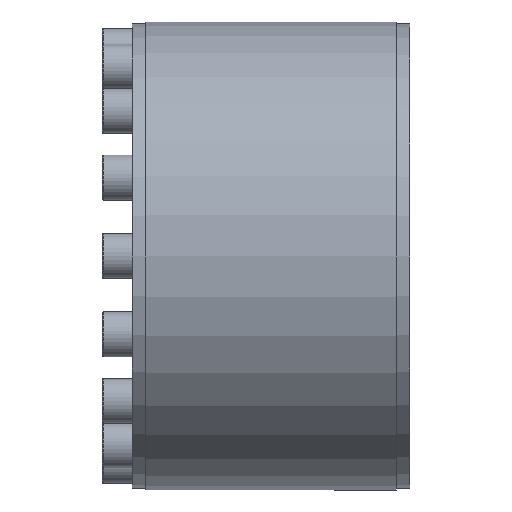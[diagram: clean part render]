
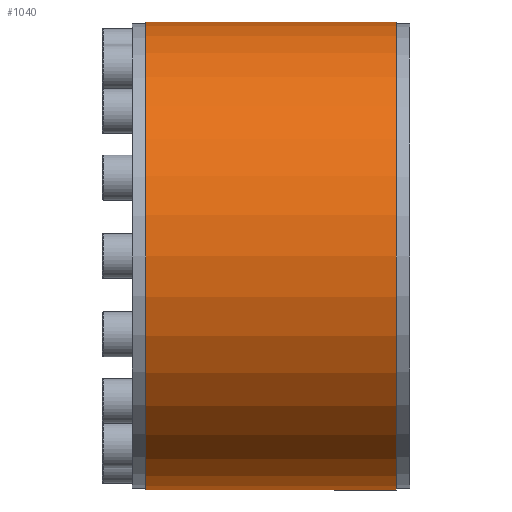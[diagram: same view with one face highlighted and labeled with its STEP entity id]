
A CAD part, left-side view. The second image highlights one B-rep face of the part: STEP entity #1040.
In plain terms, the highlighted cylindrical face has radius 125 mm (diameter 250 mm), a partial arc.
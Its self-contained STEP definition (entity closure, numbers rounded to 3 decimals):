
#273 = CARTESIAN_POINT ( 'NONE',  ( 0., 67., 125. ) ) ;
#343 = DIRECTION ( 'NONE',  ( 0., 0., -1. ) ) ;
#797 = LINE ( 'NONE', #4048, #3503 ) ;
#879 = EDGE_CURVE ( 'NONE', #4313, #4865, #5560, .T. ) ;
#1040 = ADVANCED_FACE ( 'NONE', ( #5777 ), #5703, .T. ) ;
#1166 = EDGE_CURVE ( 'NONE', #4313, #2433, #1746, .T. ) ;
#1624 = ORIENTED_EDGE ( 'NONE', *, *, #879, .F. ) ;
#1746 = CIRCLE ( 'NONE', #4849, 125. ) ;
#1962 = VECTOR ( 'NONE', #3234, 1000. ) ;
#2347 = CARTESIAN_POINT ( 'NONE',  ( 0., 0., 125. ) ) ;
#2433 = VERTEX_POINT ( 'NONE', #5406 ) ;
#2444 = EDGE_LOOP ( 'NONE', ( #1624, #3007, #3524, #4227 ) ) ;
#2541 = DIRECTION ( 'NONE',  ( 0., -1., 0. ) ) ;
#3007 = ORIENTED_EDGE ( 'NONE', *, *, #1166, .T. ) ;
#3013 = CARTESIAN_POINT ( 'NONE',  ( 0., -67., 0. ) ) ;
#3099 = DIRECTION ( 'NONE',  ( 0., 0., -1. ) ) ;
#3123 = CARTESIAN_POINT ( 'NONE',  ( 0., -67., -125. ) ) ;
#3132 = CIRCLE ( 'NONE', #5089, 125. ) ;
#3234 = DIRECTION ( 'NONE',  ( 0., -1., 0. ) ) ;
#3503 = VECTOR ( 'NONE', #4067, 1000. ) ;
#3524 = ORIENTED_EDGE ( 'NONE', *, *, #5067, .T. ) ;
#3975 = DIRECTION ( 'NONE',  ( 0., -1., 0. ) ) ;
#4021 = AXIS2_PLACEMENT_3D ( 'NONE', #5298, #2541, #4754 ) ;
#4048 = CARTESIAN_POINT ( 'NONE',  ( 0., 0., -125. ) ) ;
#4067 = DIRECTION ( 'NONE',  ( 0., -1., 0. ) ) ;
#4227 = ORIENTED_EDGE ( 'NONE', *, *, #5646, .F. ) ;
#4303 = CARTESIAN_POINT ( 'NONE',  ( 0., -67., 125. ) ) ;
#4313 = VERTEX_POINT ( 'NONE', #273 ) ;
#4641 = VERTEX_POINT ( 'NONE', #3123 ) ;
#4754 = DIRECTION ( 'NONE',  ( 0., 0., -1. ) ) ;
#4808 = DIRECTION ( 'NONE',  ( 0., -1., 0. ) ) ;
#4849 = AXIS2_PLACEMENT_3D ( 'NONE', #4879, #3975, #3099 ) ;
#4865 = VERTEX_POINT ( 'NONE', #4303 ) ;
#4879 = CARTESIAN_POINT ( 'NONE',  ( 0., 67., 0. ) ) ;
#5067 = EDGE_CURVE ( 'NONE', #2433, #4641, #797, .T. ) ;
#5089 = AXIS2_PLACEMENT_3D ( 'NONE', #3013, #4808, #343 ) ;
#5298 = CARTESIAN_POINT ( 'NONE',  ( 0., 0., 0. ) ) ;
#5406 = CARTESIAN_POINT ( 'NONE',  ( 0., 67., -125. ) ) ;
#5560 = LINE ( 'NONE', #2347, #1962 ) ;
#5646 = EDGE_CURVE ( 'NONE', #4865, #4641, #3132, .T. ) ;
#5703 = CYLINDRICAL_SURFACE ( 'NONE', #4021, 125. ) ;
#5777 = FACE_OUTER_BOUND ( 'NONE', #2444, .T. ) ;
